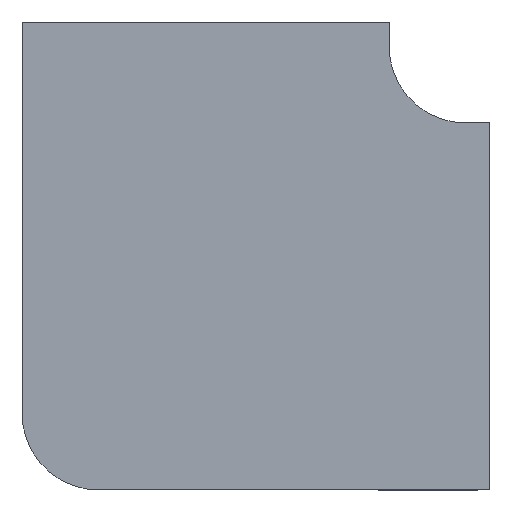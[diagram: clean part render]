
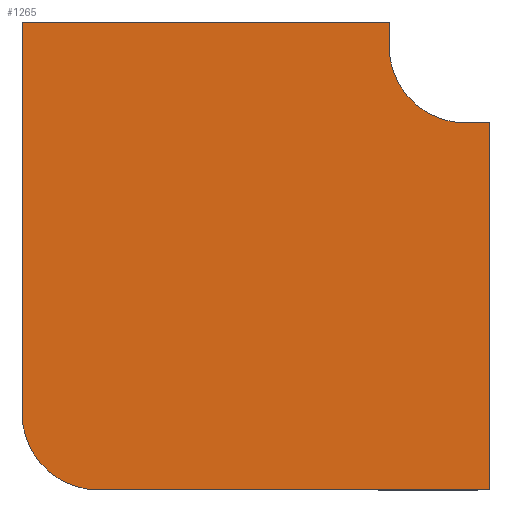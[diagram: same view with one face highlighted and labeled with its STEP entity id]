
A CAD part, front view. The second image highlights one B-rep face of the part: STEP entity #1265.
In plain terms, the highlighted planar face has unit normal (0, -1, 0).
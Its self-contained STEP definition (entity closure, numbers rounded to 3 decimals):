
#17 = VECTOR ( 'NONE', #199, 1000. ) ;
#21 = CARTESIAN_POINT ( 'NONE',  ( -600., 0., -600. ) ) ;
#37 = ORIENTED_EDGE ( 'NONE', *, *, #239, .F. ) ;
#56 = ORIENTED_EDGE ( 'NONE', *, *, #238, .F. ) ;
#99 = CARTESIAN_POINT ( 'NONE',  ( -725., 0., 40. ) ) ;
#116 = DIRECTION ( 'NONE',  ( 0., 0., -1. ) ) ;
#118 = ORIENTED_EDGE ( 'NONE', *, *, #296, .F. ) ;
#146 = CARTESIAN_POINT ( 'NONE',  ( -725., 0., -600. ) ) ;
#172 = CARTESIAN_POINT ( 'NONE',  ( 0., 0., -125. ) ) ;
#185 = EDGE_CURVE ( 'NONE', #1450, #1088, #852, .T. ) ;
#199 = DIRECTION ( 'NONE',  ( -1., 0., 0. ) ) ;
#201 = PLANE ( 'NONE',  #1626 ) ;
#238 = EDGE_CURVE ( 'NONE', #627, #271, #613, .T. ) ;
#239 = EDGE_CURVE ( 'NONE', #271, #349, #1416, .T. ) ;
#241 = AXIS2_PLACEMENT_3D ( 'NONE', #21, #526, #381 ) ;
#247 = CARTESIAN_POINT ( 'NONE',  ( -600., 0., -725. ) ) ;
#256 = CARTESIAN_POINT ( 'NONE',  ( 0., 0., -125. ) ) ;
#268 = EDGE_CURVE ( 'NONE', #1290, #1450, #480, .T. ) ;
#271 = VERTEX_POINT ( 'NONE', #1674 ) ;
#282 = VECTOR ( 'NONE', #116, 1000. ) ;
#296 = EDGE_CURVE ( 'NONE', #1602, #1290, #506, .T. ) ;
#300 = CARTESIAN_POINT ( 'NONE',  ( -125., 0., 0. ) ) ;
#349 = VERTEX_POINT ( 'NONE', #300 ) ;
#381 = DIRECTION ( 'NONE',  ( 0., 0., 1. ) ) ;
#408 = EDGE_CURVE ( 'NONE', #1406, #627, #643, .T. ) ;
#474 = FACE_OUTER_BOUND ( 'NONE', #740, .T. ) ;
#480 = LINE ( 'NONE', #1151, #800 ) ;
#501 = CARTESIAN_POINT ( 'NONE',  ( 0., 0., 0. ) ) ;
#506 = LINE ( 'NONE', #256, #936 ) ;
#526 = DIRECTION ( 'NONE',  ( 0., 1., 0. ) ) ;
#579 = ORIENTED_EDGE ( 'NONE', *, *, #1120, .F. ) ;
#584 = CIRCLE ( 'NONE', #241, 125. ) ;
#613 = LINE ( 'NONE', #99, #1616 ) ;
#627 = VERTEX_POINT ( 'NONE', #863 ) ;
#643 = LINE ( 'NONE', #146, #1097 ) ;
#708 = DIRECTION ( 'NONE',  ( 0., -1., 0. ) ) ;
#718 = CARTESIAN_POINT ( 'NONE',  ( 0., 0., 0. ) ) ;
#740 = EDGE_LOOP ( 'NONE', ( #56, #1409, #980, #927, #1268, #118, #579, #37 ) ) ;
#752 = CARTESIAN_POINT ( 'NONE',  ( -725., 0., -600. ) ) ;
#768 = CARTESIAN_POINT ( 'NONE',  ( 40., 0., -725. ) ) ;
#800 = VECTOR ( 'NONE', #1278, 1000. ) ;
#837 = AXIS2_PLACEMENT_3D ( 'NONE', #501, #1024, #1549 ) ;
#852 = LINE ( 'NONE', #1636, #17 ) ;
#863 = CARTESIAN_POINT ( 'NONE',  ( -725., 0., 40. ) ) ;
#902 = DIRECTION ( 'NONE',  ( 1., 0., 0. ) ) ;
#927 = ORIENTED_EDGE ( 'NONE', *, *, #185, .F. ) ;
#936 = VECTOR ( 'NONE', #1425, 1000. ) ;
#978 = CARTESIAN_POINT ( 'NONE',  ( 40., 0., -125. ) ) ;
#980 = ORIENTED_EDGE ( 'NONE', *, *, #1670, .F. ) ;
#997 = CARTESIAN_POINT ( 'NONE',  ( -125., 0., 40. ) ) ;
#1024 = DIRECTION ( 'NONE',  ( 0., -1., 0. ) ) ;
#1076 = CIRCLE ( 'NONE', #837, 125. ) ;
#1088 = VERTEX_POINT ( 'NONE', #247 ) ;
#1097 = VECTOR ( 'NONE', #1184, 1000. ) ;
#1120 = EDGE_CURVE ( 'NONE', #349, #1602, #1076, .T. ) ;
#1151 = CARTESIAN_POINT ( 'NONE',  ( 40., 0., -125. ) ) ;
#1184 = DIRECTION ( 'NONE',  ( 0., 0., 1. ) ) ;
#1235 = DIRECTION ( 'NONE',  ( 0., 0., -1. ) ) ;
#1265 = ADVANCED_FACE ( 'NONE', ( #474 ), #201, .T. ) ;
#1268 = ORIENTED_EDGE ( 'NONE', *, *, #268, .F. ) ;
#1278 = DIRECTION ( 'NONE',  ( 0., 0., -1. ) ) ;
#1290 = VERTEX_POINT ( 'NONE', #978 ) ;
#1406 = VERTEX_POINT ( 'NONE', #752 ) ;
#1409 = ORIENTED_EDGE ( 'NONE', *, *, #408, .F. ) ;
#1416 = LINE ( 'NONE', #997, #282 ) ;
#1425 = DIRECTION ( 'NONE',  ( 1., 0., 0. ) ) ;
#1450 = VERTEX_POINT ( 'NONE', #768 ) ;
#1549 = DIRECTION ( 'NONE',  ( 0., 0., -1. ) ) ;
#1602 = VERTEX_POINT ( 'NONE', #172 ) ;
#1616 = VECTOR ( 'NONE', #902, 1000. ) ;
#1626 = AXIS2_PLACEMENT_3D ( 'NONE', #718, #708, #1235 ) ;
#1636 = CARTESIAN_POINT ( 'NONE',  ( 40., 0., -725. ) ) ;
#1670 = EDGE_CURVE ( 'NONE', #1088, #1406, #584, .T. ) ;
#1674 = CARTESIAN_POINT ( 'NONE',  ( -125., 0., 40. ) ) ;
